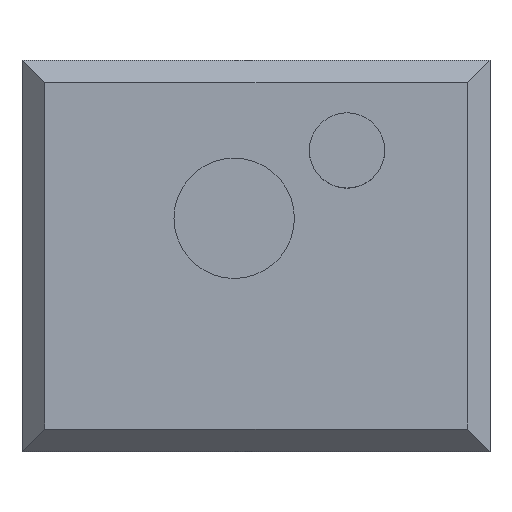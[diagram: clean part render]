
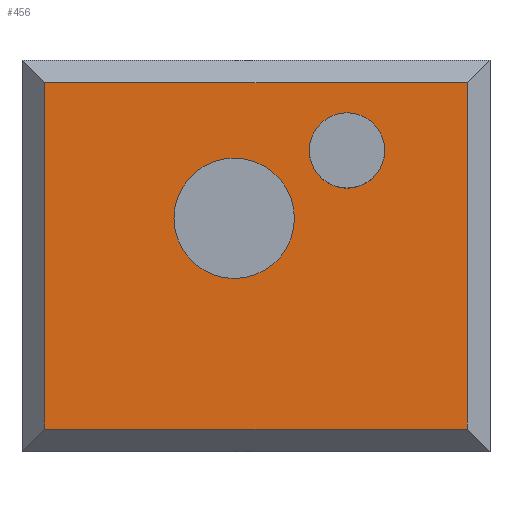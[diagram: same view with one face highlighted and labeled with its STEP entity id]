
A CAD part, top view. The second image highlights one B-rep face of the part: STEP entity #456.
In plain terms, the highlighted planar face has unit normal (0, 0, 1).
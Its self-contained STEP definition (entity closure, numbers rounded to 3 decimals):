
#27 = FACE_BOUND ( 'NONE', #177, .T. ) ;
#30 = FACE_BOUND ( 'NONE', #111, .T. ) ;
#32 = FACE_OUTER_BOUND ( 'NONE', #73, .T. ) ;
#70 = CIRCLE ( 'NONE', #205, 4. ) ;
#71 = VECTOR ( 'NONE', #392, 1000. ) ;
#72 = CIRCLE ( 'NONE', #208, 2.5 ) ;
#73 = EDGE_LOOP ( 'NONE', ( #134, #135, #138, #139 ) ) ;
#86 = LINE ( 'NONE', #395, #71 ) ;
#89 = VECTOR ( 'NONE', #432, 1000. ) ;
#90 = CIRCLE ( 'NONE', #187, 2.5 ) ;
#92 = CIRCLE ( 'NONE', #220, 4. ) ;
#98 = LINE ( 'NONE', #434, #89 ) ;
#107 = VECTOR ( 'NONE', #279, 1000. ) ;
#111 = EDGE_LOOP ( 'NONE', ( #140, #141 ) ) ;
#114 = LINE ( 'NONE', #423, #115 ) ;
#115 = VECTOR ( 'NONE', #321, 1000. ) ;
#116 = LINE ( 'NONE', #308, #107 ) ;
#134 = ORIENTED_EDGE ( 'NONE', *, *, #215, .T. ) ;
#135 = ORIENTED_EDGE ( 'NONE', *, *, #212, .T. ) ;
#138 = ORIENTED_EDGE ( 'NONE', *, *, #226, .T. ) ;
#139 = ORIENTED_EDGE ( 'NONE', *, *, #238, .T. ) ;
#140 = ORIENTED_EDGE ( 'NONE', *, *, #223, .F. ) ;
#141 = ORIENTED_EDGE ( 'NONE', *, *, #234, .F. ) ;
#142 = ORIENTED_EDGE ( 'NONE', *, *, #233, .F. ) ;
#143 = ORIENTED_EDGE ( 'NONE', *, *, #224, .F. ) ;
#177 = EDGE_LOOP ( 'NONE', ( #142, #143 ) ) ;
#187 = AXIS2_PLACEMENT_3D ( 'NONE', #437, #436, #435 ) ;
#190 = AXIS2_PLACEMENT_3D ( 'NONE', #283, #282, #281 ) ;
#205 = AXIS2_PLACEMENT_3D ( 'NONE', #412, #409, #408 ) ;
#208 = AXIS2_PLACEMENT_3D ( 'NONE', #418, #415, #414 ) ;
#212 = EDGE_CURVE ( 'NONE', #378, #385, #114, .T. ) ;
#215 = EDGE_CURVE ( 'NONE', #380, #378, #116, .T. ) ;
#220 = AXIS2_PLACEMENT_3D ( 'NONE', #247, #439, #438 ) ;
#223 = EDGE_CURVE ( 'NONE', #352, #364, #92, .T. ) ;
#224 = EDGE_CURVE ( 'NONE', #398, #400, #90, .T. ) ;
#226 = EDGE_CURVE ( 'NONE', #385, #386, #98, .T. ) ;
#233 = EDGE_CURVE ( 'NONE', #400, #398, #72, .T. ) ;
#234 = EDGE_CURVE ( 'NONE', #364, #352, #70, .T. ) ;
#238 = EDGE_CURVE ( 'NONE', #386, #380, #86, .T. ) ;
#247 = CARTESIAN_POINT ( 'NONE',  ( 0., 2.5, 2.5 ) ) ;
#279 = DIRECTION ( 'NONE',  ( 1., 0., 0. ) ) ;
#281 = DIRECTION ( 'NONE',  ( -1., 0., 0. ) ) ;
#282 = DIRECTION ( 'NONE',  ( 0., 0., -1. ) ) ;
#283 = CARTESIAN_POINT ( 'NONE',  ( -14.1, 13., 2.5 ) ) ;
#289 = PLANE ( 'NONE',  #190 ) ;
#308 = CARTESIAN_POINT ( 'NONE',  ( -14.1, -11.5, 2.5 ) ) ;
#321 = DIRECTION ( 'NONE',  ( 0., 1., 0. ) ) ;
#352 = VERTEX_POINT ( 'NONE', #369 ) ;
#354 = CARTESIAN_POINT ( 'NONE',  ( 5., 7., 2.5 ) ) ;
#356 = CARTESIAN_POINT ( 'NONE',  ( 10., 7., 2.5 ) ) ;
#361 = CARTESIAN_POINT ( 'NONE',  ( -12.6, 11.5, 2.5 ) ) ;
#362 = CARTESIAN_POINT ( 'NONE',  ( 15.5, 11.5, 2.5 ) ) ;
#363 = CARTESIAN_POINT ( 'NONE',  ( -12.6, -11.5, 2.5 ) ) ;
#364 = VERTEX_POINT ( 'NONE', #410 ) ;
#366 = CARTESIAN_POINT ( 'NONE',  ( 15.5, -11.5, 2.5 ) ) ;
#369 = CARTESIAN_POINT ( 'NONE',  ( 4., 2.5, 2.5 ) ) ;
#378 = VERTEX_POINT ( 'NONE', #366 ) ;
#380 = VERTEX_POINT ( 'NONE', #363 ) ;
#385 = VERTEX_POINT ( 'NONE', #362 ) ;
#386 = VERTEX_POINT ( 'NONE', #361 ) ;
#392 = DIRECTION ( 'NONE',  ( 0., -1., 0. ) ) ;
#395 = CARTESIAN_POINT ( 'NONE',  ( -12.6, 13., 2.5 ) ) ;
#398 = VERTEX_POINT ( 'NONE', #356 ) ;
#400 = VERTEX_POINT ( 'NONE', #354 ) ;
#408 = DIRECTION ( 'NONE',  ( 1., 0., 0. ) ) ;
#409 = DIRECTION ( 'NONE',  ( 0., 0., 1. ) ) ;
#410 = CARTESIAN_POINT ( 'NONE',  ( -4., 2.5, 2.5 ) ) ;
#412 = CARTESIAN_POINT ( 'NONE',  ( 0., 2.5, 2.5 ) ) ;
#414 = DIRECTION ( 'NONE',  ( -1., 0., 0. ) ) ;
#415 = DIRECTION ( 'NONE',  ( 0., 0., 1. ) ) ;
#418 = CARTESIAN_POINT ( 'NONE',  ( 7.5, 7., 2.5 ) ) ;
#423 = CARTESIAN_POINT ( 'NONE',  ( 15.5, 13., 2.5 ) ) ;
#432 = DIRECTION ( 'NONE',  ( -1., 0., 0. ) ) ;
#434 = CARTESIAN_POINT ( 'NONE',  ( -14.1, 11.5, 2.5 ) ) ;
#435 = DIRECTION ( 'NONE',  ( -1., 0., 0. ) ) ;
#436 = DIRECTION ( 'NONE',  ( 0., 0., 1. ) ) ;
#437 = CARTESIAN_POINT ( 'NONE',  ( 7.5, 7., 2.5 ) ) ;
#438 = DIRECTION ( 'NONE',  ( 1., 0., 0. ) ) ;
#439 = DIRECTION ( 'NONE',  ( 0., 0., 1. ) ) ;
#456 = ADVANCED_FACE ( 'NONE', ( #32, #30, #27 ), #289, .F. ) ;
